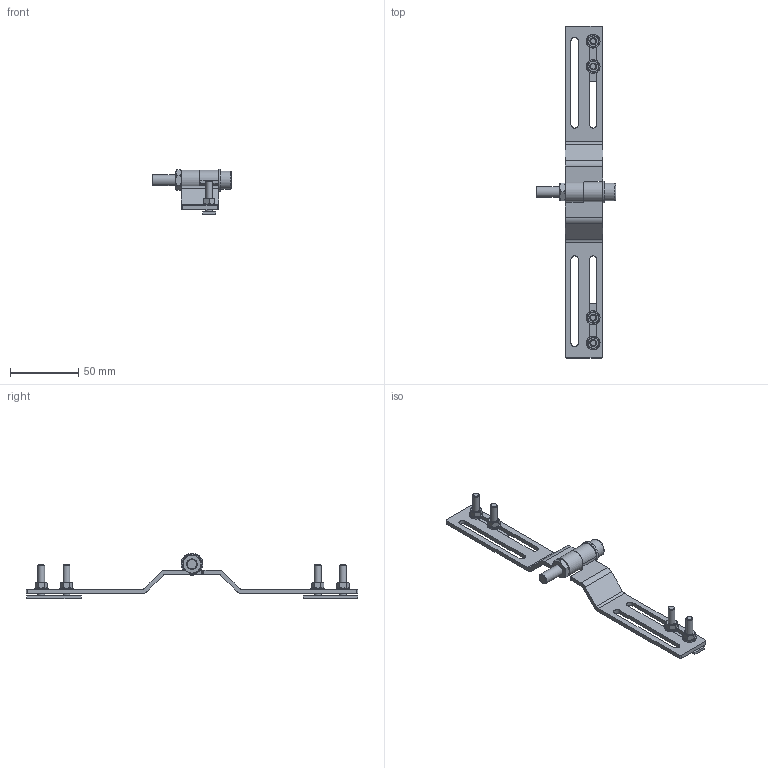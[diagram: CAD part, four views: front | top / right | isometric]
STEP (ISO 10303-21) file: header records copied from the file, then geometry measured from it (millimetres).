
FILE_DESCRIPTION(/* description */ (''),/* implementation_level */ '2;1');
FILE_NAME(/* name */ 'DSD-0488 ST-KCASCADE-SG EXTENDED.stp',/* time_stamp */ '2020-07-24T13:03:50+02:00',/* author */ (''),/* organization */ (''),/* preprocessor_version */ 'ST-DEVELOPER v16.7',/* originating_system */ 'SIEMENS PLM Software NX 12.0',/* authorisation */ '');
FILE_SCHEMA (('AUTOMOTIVE_DESIGN { 1 0 10303 214 3 1 1 1 }'));
Length unit declared in the file: millimetre
Products named in the file (1): FGut30D8E90Fyp66
Bounding box: 58 x 243 x 33.26 mm (x, y, z)
Surface area: 40002.7 mm2 (no closed solid volume)
Topology: 0 solids, 332 shells, 332 faces, 1550 edges, 1505 vertices
Faces by surface type: plane 157, cylinder 89, cone 83, torus 3
Full cylindrical faces by diameter (mm): 4.2 x4, 5 x8, 5.3 x4, 6.985 x1, 7.76 x1, 8.4 x1, 10 x4, 13 x1, 16 x1
Entity records: 20486 total; most frequent: CARTESIAN_POINT 6642, DIRECTION 1990, VERTEX_POINT 1505, ORIENTED_EDGE 1504, EDGE_CURVE 1504, AXIS2_PLACEMENT_3D 679, LINE 632, VECTOR 632
